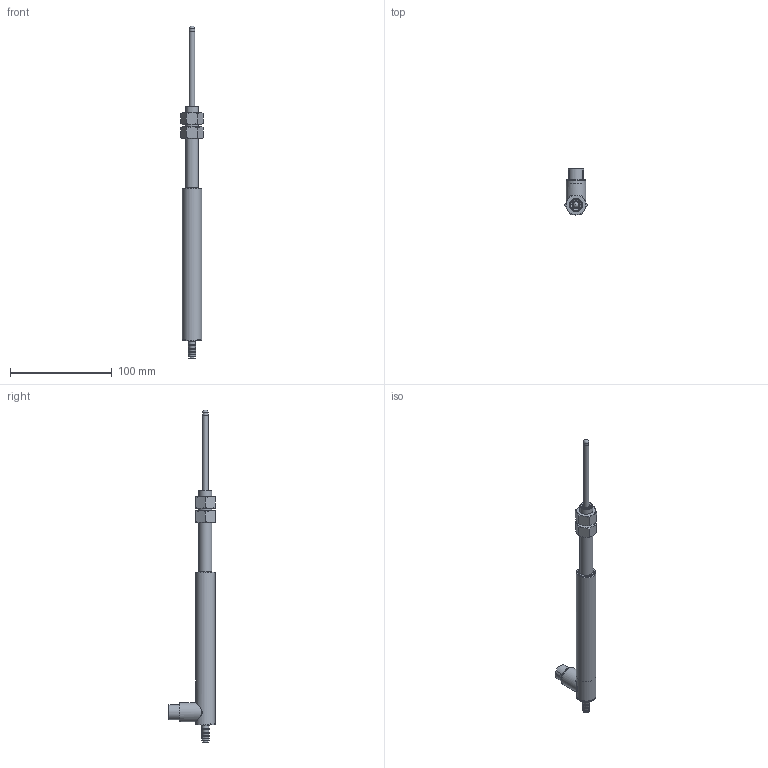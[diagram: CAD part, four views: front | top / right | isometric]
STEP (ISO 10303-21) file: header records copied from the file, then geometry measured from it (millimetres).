
FILE_DESCRIPTION(/* description */ (''),/* implementation_level */ '2;1');
FILE_NAME(/* name */ 'F:\GHRA SERIES\GHRA-750-A-XXXX\GHRA-750-A-500\GHRA-750-A-500 Assembly.iam.stp',/* time_stamp */ '2021-11-17T12:45:53-05:00',/* author */ ('J. Nielson'),/* organization */ (''),/* preprocessor_version */ 'ST-DEVELOPER v18.1',/* originating_system */ 'Autodesk Inventor 2022',/* authorisation */ '');
FILE_SCHEMA (('AUTOMOTIVE_DESIGN { 1 0 10303 214 3 1 1 }'));
Length unit declared in the file: inch
Products named in the file (4): GHRA-750-A-500 Assembly; GHRA-750-A-500 HOUSING_SW; GHRA-750-A-500 SHAFT_SW; AS 2465 - 1/2  UNF
Assembly tree (4 placements, depth 2):
  GHRA-750-A-500 Assembly
    GHRA-750-A-500 HOUSING_SW
    GHRA-750-A-500 SHAFT_SW
    AS 2465 - 1/2  UNF  x2
Bounding box: 22 x 45.24 x 325.75 mm (x, y, z)
Volume: 31778.1 mm3; surface area: 34850.6 mm2
Topology: 17 solids, 17 shells, 210 faces, 417 edges, 265 vertices
Faces by surface type: plane 82, cylinder 68, cone 47, bspline 7, torus 5, sphere 1
Full cylindrical faces by diameter (mm): 0.762 x12, 2.845 x3, 4.762 x1, 4.826 x2, 5.334 x4, 5.397 x1, 6 x1, 6.731 x1, 7.493 x4, 7.671 x2, 7.874 x1, 11.328 x2, 12.7 x1, 13.208 x1, 14.986 x1, 15.748 x2, 16.51 x1, 17.018 x1, 17.069 x1, 17.78 x1, 18.034 x1, 18.415 x6, 19.05 x2
Entity records: 7441 total; most frequent: CARTESIAN_POINT 3100, DIRECTION 898, ORIENTED_EDGE 730, AXIS2_PLACEMENT_3D 384, EDGE_CURVE 365, EDGE_LOOP 239, VERTEX_POINT 236, CIRCLE 196
